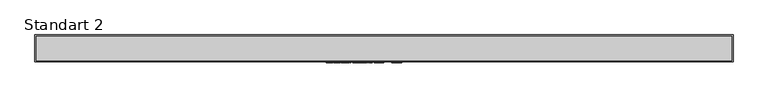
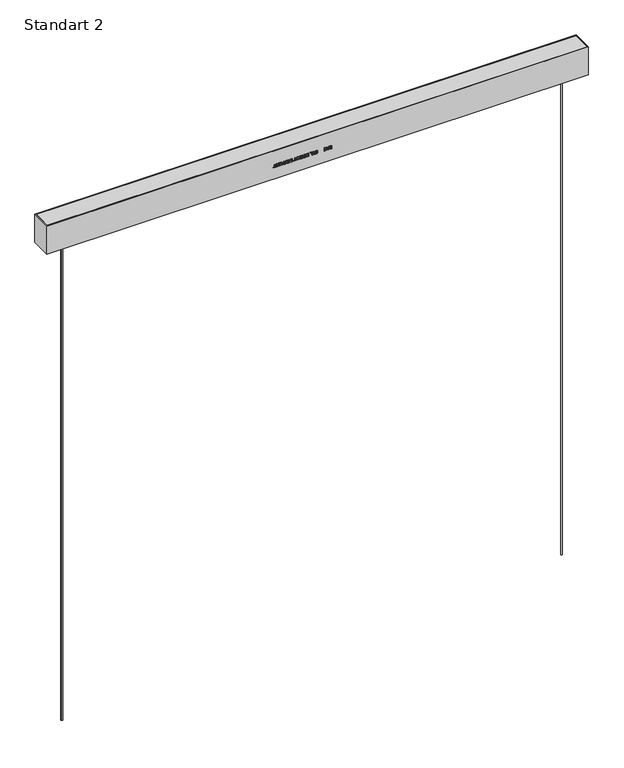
"""IFC4 building model written with IfcOpenShell, lengths in millimetres: light fixture geometry, EAE_STL_DIRECT_INDIRECT_TK_62W : Standart 2."""

from ifc_helpers import new_model, si_unit, point, frame, frame_2d, origin, origin_with_axes, place, context, project, spatial, polyline, circle_curve, trimmed, segment, composite_curve, outline, extrude, source, transform, mapped, element, save


def standart_2_fa765472(model_context):
    return source(origin(), model_context, "Body", "SweptSolid", [
        extrude(outline(polyline([(1662.8476945, -76.4051608), (1662.8476945, -140.4051608), (-151.1523055, -140.4051608), (-151.1523055, -76.4051608), (1662.8476945, -76.4051608)])), frame((0.0, 0.0, 1700.0), z_axis=(0.0, 0.0, 1.0), x_axis=(1.0, 0.0, 0.0)), (0.0, 0.0, 1.0), 2.0),
        extrude(outline(composite_curve([segment(trimmed(circle_curve(frame_2d((1595.8476945, -108.4051608)), 2.5), [point((1593.3476945, -108.4051608))], [point((1598.3476945, -108.4051608))], False, "CARTESIAN"), True, "CONTINUOUS"), segment(trimmed(circle_curve(frame_2d((1595.8476945, -108.4051608)), 2.5), [point((1598.3476945, -108.4051608))], [point((1593.3476945, -108.4051608))], False, "CARTESIAN"), True, "CONTINUOUS")], self_intersect=False)), origin_with_axes(), (0.0, 0.0, 1.0), 1700.0),
        extrude(outline(composite_curve([segment(trimmed(circle_curve(frame_2d((-84.1523055, -108.4051608)), 2.5), [point((-86.6523055, -108.4051608))], [point((-81.6523055, -108.4051608))], False, "CARTESIAN"), True, "CONTINUOUS"), segment(trimmed(circle_curve(frame_2d((-84.1523055, -108.4051608)), 2.5), [point((-81.6523055, -108.4051608))], [point((-86.6523055, -108.4051608))], False, "CARTESIAN"), True, "CONTINUOUS")], self_intersect=False)), origin_with_axes(), (0.0, 0.0, 1.0), 1700.0),
        extrude(outline(polyline([(1748.7063353, 755.2198426), (1750.6242268, 754.6778298), (1751.8946459, 753.2590316), (1752.3164839, 751.0161777), (1751.9253027, 749.1166803), (1750.8290144, 747.8217357), (1749.3268296, 747.3716934), (1747.9068051, 747.7628746), (1746.8889982, 748.9781114), (1746.2586937, 751.2001187), (1745.5572654, 753.2504477), (1744.6866114, 753.6502128), (1743.644279, 753.086127), (1743.2126308, 751.2884103), (1743.6491841, 749.4955988), (1744.9392237, 748.7843602), (1744.9392237, 747.5286564), (1743.3671413, 748.0265233), (1742.3149988, 749.3508985), (1741.956927, 751.3374613), (1742.2990572, 753.1989442), (1743.3021488, 754.4705896), (1744.7233996, 754.9059166), (1745.9717458, 754.5539762), (1746.9061661, 753.4858921), (1747.5254341, 751.5177235), (1748.004907, 749.6893499), (1748.575124, 748.8358637), (1749.3587127, 748.6273972), (1750.2011625, 748.9057613), (1750.8314669, 749.7531162), (1751.0607801, 751.0652286), (1750.7578905, 752.5710922), (1749.9632654, 753.5594685), (1748.7063353, 753.9641387), (1748.7063353, 755.2198426)])), frame((0.0, -145.4051608, 0.0), z_axis=(0.0, 1.0, 0.0), x_axis=(0.0, 0.0, 1.0)), (0.0, 0.0, 1.0), 2.0),
        extrude(outline(polyline([(1752.1595209, 742.9767298), (1752.1595209, 741.7210259), (1743.3695938, 741.7210259), (1743.3695938, 738.4248033), (1742.1138899, 738.4248033), (1742.1138899, 746.2729525), (1743.3695938, 746.2729525), (1743.3695938, 742.9767298), (1752.1595209, 742.9767298)])), frame((0.0, -145.4051608, 0.0), z_axis=(0.0, 1.0, 0.0), x_axis=(0.0, 0.0, 1.0)), (0.0, 0.0, 1.0), 2.0),
        extrude(outline(polyline([(1752.1595209, 737.0121364), (1752.1595209, 730.733617), (1750.9038171, 730.733617), (1750.9038171, 735.7564325), (1742.1138899, 735.7564325), (1742.1138899, 737.0121364), (1752.1595209, 737.0121364)])), frame((0.0, -145.4051608, 0.0), z_axis=(0.0, 1.0, 0.0), x_axis=(0.0, 0.0, 1.0)), (0.0, 0.0, 1.0), 2.0),
        extrude(outline(polyline([(1752.1595209, 725.3968755), (1752.1595209, 721.764654), (1751.9878427, 720.149652), (1751.4838444, 718.9491304), (1750.5727233, 718.031878), (1749.1097792, 717.3451649), (1747.0827494, 717.0778373), (1744.693969, 717.4726974), (1742.9771864, 718.6621825), (1742.2585902, 720.1386155), (1742.1138899, 721.9314271), (1742.1138899, 725.3968755), (1752.1595209, 725.3968755)]), holes=[polyline([(1750.9038171, 724.1411717), (1743.3695938, 724.1411717), (1743.3695938, 721.9535001), (1743.5707026, 720.1729512), (1744.6841588, 718.8694227), (1747.063129, 718.3335412), (1748.9626264, 718.6070002), (1750.2097464, 719.3709684), (1750.7223286, 720.3029362), (1750.9038171, 721.9191644), (1750.9038171, 724.1411717)])]), frame((0.0, -145.4051608, 0.0), z_axis=(0.0, 1.0, 0.0), x_axis=(0.0, 0.0, 1.0)), (0.0, 0.0, 1.0), 2.0),
        extrude(outline(polyline([(715.1942815, -145.4051608), (713.9385777, -145.4051608), (713.9385777, -143.4051608), (715.1942815, -143.4051608), (715.1942815, -145.4051608)])), frame((0.0, 0.0, 1742.1138899), z_axis=(0.0, 0.0, 1.0), x_axis=(1.0, 0.0, 0.0)), (0.0, 0.0, 1.0), 10.045631),
        extrude(outline(polyline([(1752.1595209, 711.4271699), (1752.1595209, 710.171466), (1747.7645574, 710.171466), (1748.0478265, 707.3301907), (1748.6989776, 706.6667769), (1750.0773089, 705.7225464), (1752.1595209, 704.4153391), (1752.1595209, 702.9560738), (1749.4371942, 704.6311632), (1748.1447021, 705.64897), (1747.6075944, 706.3626611), (1746.6731741, 704.2596024), (1744.8631947, 703.5790207), (1743.3438421, 703.9898222), (1742.3848963, 705.0885631), (1742.1138899, 707.0984251), (1742.1138899, 711.4271699), (1752.1595209, 711.4271699)]), holes=[polyline([(1746.5088535, 710.171466), (1743.3695938, 710.171466), (1743.3695938, 707.0444691), (1743.8036946, 705.3657009), (1744.9097931, 704.8347245), (1745.7620531, 705.1130886), (1746.3310439, 705.9273341), (1746.5088535, 707.3608476), (1746.5088535, 710.171466)])]), frame((0.0, -145.4051608, 0.0), z_axis=(0.0, 1.0, 0.0), x_axis=(0.0, 0.0, 1.0)), (0.0, 0.0, 1.0), 2.0),
        extrude(outline(polyline([(1752.1595209, 701.3815389), (1752.1595209, 694.0042786), (1750.9038171, 694.0042786), (1750.9038171, 700.125835), (1747.6075944, 700.125835), (1747.6075944, 694.4751676), (1746.3518905, 694.4751676), (1746.3518905, 700.125835), (1743.3695938, 700.125835), (1743.3695938, 694.1612416), (1742.1138899, 694.1612416), (1742.1138899, 701.3815389), (1752.1595209, 701.3815389)])), frame((0.0, -145.4051608, 0.0), z_axis=(0.0, 1.0, 0.0), x_axis=(0.0, 0.0, 1.0)), (0.0, 0.0, 1.0), 2.0),
        extrude(outline(polyline([(1748.588613, 685.0573885), (1750.4378332, 686.12302), (1751.0607801, 688.0445903), (1750.6033801, 689.7773145), (1749.2213701, 690.9569894), (1747.0582239, 691.3359079), (1745.191836, 691.0158505), (1743.7497385, 689.9060732), (1743.2126308, 687.9415833), (1743.6970088, 686.2444211), (1745.2408869, 685.2143515), (1744.9416762, 683.9586476), (1742.7392893, 685.3774458), (1741.956927, 687.8925324), (1742.5614797, 690.3058383), (1744.3309921, 691.9968692), (1747.0606765, 692.5916117), (1749.7462151, 692.0655405), (1751.6567489, 690.5326988), (1752.3164839, 687.9195104), (1751.4446036, 685.2903804), (1748.9123492, 683.8016846), (1748.588613, 685.0573885)])), frame((0.0, -145.4051608, 0.0), z_axis=(0.0, 1.0, 0.0), x_axis=(0.0, 0.0, 1.0)), (0.0, 0.0, 1.0), 2.0),
        extrude(outline(polyline([(1752.1595209, 679.563684), (1752.1595209, 678.3079801), (1743.3695938, 678.3079801), (1743.3695938, 675.0117575), (1742.1138899, 675.0117575), (1742.1138899, 682.8599067), (1743.3695938, 682.8599067), (1743.3695938, 679.563684), (1752.1595209, 679.563684)])), frame((0.0, -145.4051608, 0.0), z_axis=(0.0, 1.0, 0.0), x_axis=(0.0, 0.0, 1.0)), (0.0, 0.0, 1.0), 2.0),
        extrude(outline(polyline([(669.518053, -145.4051608), (668.2623491, -145.4051608), (668.2623491, -143.4051608), (669.518053, -143.4051608), (669.518053, -145.4051608)])), frame((0.0, 0.0, 1742.1138899), z_axis=(0.0, 0.0, 1.0), x_axis=(1.0, 0.0, 0.0)), (0.0, 0.0, 1.0), 10.045631),
        extrude(outline(polyline([(1752.1595209, 665.7509414), (1752.1595209, 664.4952375), (1744.1985546, 664.4952375), (1752.1595209, 659.2467877), (1752.1595209, 657.9027921), (1742.1138899, 657.9027921), (1742.1138899, 659.158496), (1750.0724038, 659.158496), (1742.1138899, 664.4069458), (1742.1138899, 665.7509414), (1752.1595209, 665.7509414)])), frame((0.0, -145.4051608, 0.0), z_axis=(0.0, 1.0, 0.0), x_axis=(0.0, 0.0, 1.0)), (0.0, 0.0, 1.0), 2.0),
        extrude(outline(polyline([(1752.1595209, 655.7053104), (1752.1595209, 652.0730888), (1751.9878427, 650.4580868), (1751.4838444, 649.2575653), (1750.5727233, 648.3403128), (1749.1097792, 647.6535998), (1747.0827494, 647.3862722), (1744.693969, 647.7811322), (1742.9771864, 648.9706173), (1742.2585902, 650.4470504), (1742.1138899, 652.239862), (1742.1138899, 655.7053104), (1752.1595209, 655.7053104)]), holes=[polyline([(1750.9038171, 654.4496065), (1743.3695938, 654.4496065), (1743.3695938, 652.2619349), (1743.5707026, 650.481386), (1744.6841588, 649.1778575), (1747.063129, 648.6419761), (1748.9626264, 648.915435), (1750.2097464, 649.6794033), (1750.7223286, 650.611371), (1750.9038171, 652.2275992), (1750.9038171, 654.4496065)])]), frame((0.0, -145.4051608, 0.0), z_axis=(0.0, 1.0, 0.0), x_axis=(0.0, 0.0, 1.0)), (0.0, 0.0, 1.0), 2.0),
        extrude(outline(polyline([(645.5027164, -145.4051608), (644.2470125, -145.4051608), (644.2470125, -143.4051608), (645.5027164, -143.4051608), (645.5027164, -145.4051608)])), frame((0.0, 0.0, 1742.1138899), z_axis=(0.0, 0.0, 1.0), x_axis=(1.0, 0.0, 0.0)), (0.0, 0.0, 1.0), 10.045631),
        extrude(outline(polyline([(1752.1595209, 641.7356047), (1752.1595209, 640.4799009), (1747.7645574, 640.4799009), (1748.0478265, 637.6386256), (1748.6989776, 636.9752117), (1750.0773089, 636.0309813), (1752.1595209, 634.7237739), (1752.1595209, 633.2645087), (1749.4371942, 634.939598), (1748.1447021, 635.9574049), (1747.6075944, 636.6710959), (1746.6731741, 634.5680372), (1744.8631947, 633.8874555), (1743.3438421, 634.2982571), (1742.3848963, 635.396998), (1742.1138899, 637.4068599), (1742.1138899, 641.7356047), (1752.1595209, 641.7356047)]), holes=[polyline([(1746.5088535, 640.4799009), (1743.3695938, 640.4799009), (1743.3695938, 637.3529039), (1743.8036946, 635.6741357), (1744.9097931, 635.1431594), (1745.7620531, 635.4215234), (1746.3310439, 636.2357689), (1746.5088535, 637.6692824), (1746.5088535, 640.4799009)])]), frame((0.0, -145.4051608, 0.0), z_axis=(0.0, 1.0, 0.0), x_axis=(0.0, 0.0, 1.0)), (0.0, 0.0, 1.0), 2.0),
        extrude(outline(polyline([(1752.1595209, 631.6899737), (1752.1595209, 624.3127134), (1750.9038171, 624.3127134), (1750.9038171, 630.4342698), (1747.6075944, 630.4342698), (1747.6075944, 624.7836024), (1746.3518905, 624.7836024), (1746.3518905, 630.4342698), (1743.3695938, 630.4342698), (1743.3695938, 624.4696764), (1742.1138899, 624.4696764), (1742.1138899, 631.6899737), (1752.1595209, 631.6899737)])), frame((0.0, -145.4051608, 0.0), z_axis=(0.0, 1.0, 0.0), x_axis=(0.0, 0.0, 1.0)), (0.0, 0.0, 1.0), 2.0),
        extrude(outline(polyline([(1748.588613, 615.3658233), (1750.4378332, 616.4314548), (1751.0607801, 618.3530251), (1750.6033801, 620.0857493), (1749.2213701, 621.2654242), (1747.0582239, 621.6443427), (1745.191836, 621.3242854), (1743.7497385, 620.214508), (1743.2126308, 618.2500182), (1743.6970088, 616.5528559), (1745.2408869, 615.5227863), (1744.9416762, 614.2670824), (1742.7392893, 615.6858807), (1741.956927, 618.2009672), (1742.5614797, 620.6142731), (1744.3309921, 622.305304), (1747.0606765, 622.9000466), (1749.7462151, 622.3739753), (1751.6567489, 620.8411337), (1752.3164839, 618.2279452), (1751.4446036, 615.5988152), (1748.9123492, 614.1101194), (1748.588613, 615.3658233)])), frame((0.0, -145.4051608, 0.0), z_axis=(0.0, 1.0, 0.0), x_axis=(0.0, 0.0, 1.0)), (0.0, 0.0, 1.0), 2.0),
        extrude(outline(polyline([(1752.1595209, 609.8721189), (1752.1595209, 608.616415), (1743.3695938, 608.616415), (1743.3695938, 605.3201923), (1742.1138899, 605.3201923), (1742.1138899, 613.1683415), (1743.3695938, 613.1683415), (1743.3695938, 609.8721189), (1752.1595209, 609.8721189)])), frame((0.0, -145.4051608, 0.0), z_axis=(0.0, 1.0, 0.0), x_axis=(0.0, 0.0, 1.0)), (0.0, 0.0, 1.0), 2.0),
        extrude(outline(polyline([(1752.1595209, 802.0015407), (1752.1595209, 794.7707715), (1750.9287517, 794.7707715), (1750.9287517, 800.7707715), (1747.6979825, 800.7707715), (1747.6979825, 795.2323099), (1746.4672133, 795.2323099), (1746.4672133, 800.7707715), (1743.5441363, 800.7707715), (1743.5441363, 794.9246176), (1742.3133671, 794.9246176), (1742.3133671, 802.0015407), (1752.1595209, 802.0015407)])), frame((0.0, -145.4051608, 0.0), z_axis=(0.0, 1.0, 0.0), x_axis=(0.0, 0.0, 1.0)), (0.0, 0.0, 1.0), 2.0),
        extrude(outline(polyline([(1752.1595209, 794.0712522), (1752.1595209, 792.7707715), (1749.0825979, 791.6457715), (1749.0825979, 787.590483), (1752.1595209, 786.4630792), (1752.1595209, 785.1625984), (1742.3133671, 789.0928868), (1742.3133671, 790.1409638), (1752.1595209, 794.0712522)]), holes=[polyline([(1747.8518286, 791.1938484), (1745.2196171, 790.2299061), (1743.5441363, 789.6169253), (1745.4311556, 788.9270215), (1747.8518286, 788.0400022), (1747.8518286, 791.1938484)])]), frame((0.0, -145.4051608, 0.0), z_axis=(0.0, 1.0, 0.0), x_axis=(0.0, 0.0, 1.0)), (0.0, 0.0, 1.0), 2.0),
        extrude(outline(polyline([(1752.1595209, 783.8476945), (1752.1595209, 776.6169253), (1750.9287517, 776.6169253), (1750.9287517, 782.6169253), (1747.6979825, 782.6169253), (1747.6979825, 777.0784638), (1746.4672133, 777.0784638), (1746.4672133, 782.6169253), (1743.5441363, 782.6169253), (1743.5441363, 776.7707715), (1742.3133671, 776.7707715), (1742.3133671, 783.8476945), (1752.1595209, 783.8476945)])), frame((0.0, -145.4051608, 0.0), z_axis=(0.0, 1.0, 0.0), x_axis=(0.0, 0.0, 1.0)), (0.0, 0.0, 1.0), 2.0),
        extrude(outline(polyline([(1662.8476945, -76.4051608), (1662.8476945, -140.4051608), (-151.1523055, -140.4051608), (-151.1523055, -76.4051608), (1662.8476945, -76.4051608)])), frame((0.0, 0.0, 1795.0), z_axis=(0.0, 0.0, 1.0), x_axis=(1.0, 0.0, 0.0)), (0.0, 0.0, 1.0), 5.0),
        extrude(outline(polyline([(1665.8476945, -73.4051608), (1665.8476945, -143.4051608), (-154.1523055, -143.4051608), (-154.1523055, -73.4051608), (1665.8476945, -73.4051608)]), holes=[polyline([(1662.8476945, -76.4051608), (-151.1523055, -76.4051608), (-151.1523055, -140.4051608), (1662.8476945, -140.4051608), (1662.8476945, -76.4051608)])]), frame((0.0, 0.0, 1700.0), z_axis=(0.0, 0.0, 1.0), x_axis=(1.0, 0.0, 0.0)), (0.0, 0.0, 1.0), 100.0),
    ])


if __name__ == "__main__":
    model = new_model("IFC4")
    model_context = context("Model", 3, world=origin())
    ifc_project = project(units=[si_unit("LENGTHUNIT", "METRE", prefix="MILLI")], contexts=[model_context])
    site = spatial("IfcSite", under=ifc_project)
    building = spatial("IfcBuilding", under=site)
    placement = place(None, origin())
    standart_2_shape = standart_2_fa765472(model_context)
    element("IfcLightFixture", 1, ObjectType="EAE_STL_DIRECT_INDIRECT_TK_62W : Standart 2", at=placement, inside=building, context=model_context, shape_type="MappedRepresentation", body=[
        mapped(standart_2_shape, transform((0.0, 0.0, 0.0), x_axis=(1.0, 0.0, 0.0), y_axis=(0.0, 1.0, 0.0), z_axis=(0.0, 0.0, 1.0))),
    ])
    save(model, "model.ifc")
